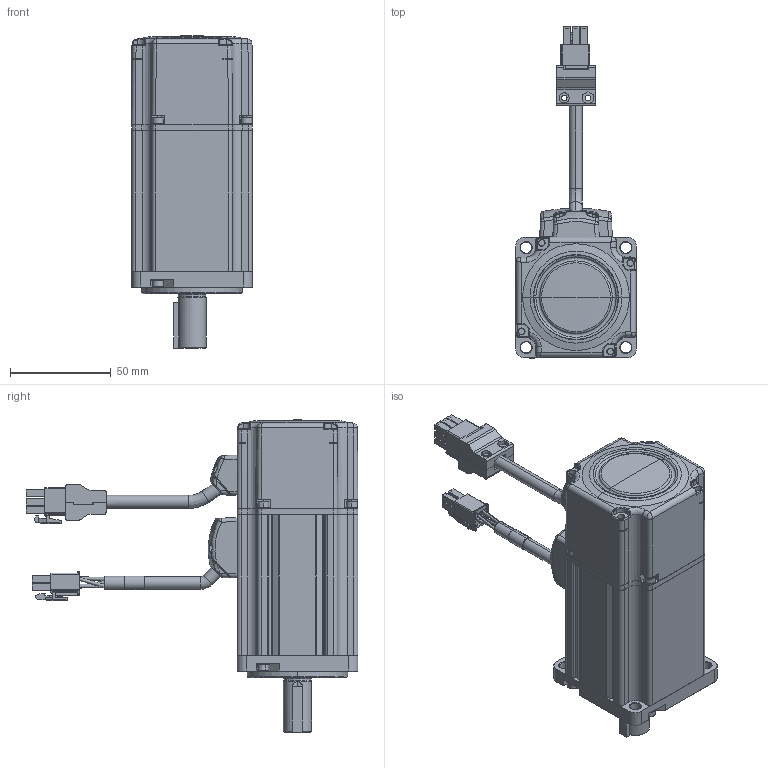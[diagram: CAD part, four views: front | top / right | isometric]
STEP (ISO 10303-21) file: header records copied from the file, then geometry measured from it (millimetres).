
FILE_DESCRIPTION (( 'STEP AP203' ), '1' );
FILE_NAME ('TSSM0602AE4-KCD-NNV09(-A).STEP', '2016-07-11T06:01:06', ( '' ), ( '' ), 'SwSTEP 2.0', 'SolidWorks 2012', '' );
FILE_SCHEMA (( 'CONFIG_CONTROL_DESIGN' ));
Products named in the file (1): TSSM0602AE4-KCD-NNV09(-A)
Bounding box: 60 x 164.7 x 155 mm (x, y, z)
Surface area: 61060.1 mm2 (no closed solid volume)
Topology: 0 solids, 43 shells, 1154 faces, 3379 edges, 2250 vertices
Faces by surface type: plane 505, cylinder 318, bspline 138, cone 119, torus 66, sphere 8
Entity records: 43328 total; most frequent: CARTESIAN_POINT 13389, DIRECTION 6143, ORIENTED_EDGE 5905, EDGE_CURVE 3375, VERTEX_POINT 2250, AXIS2_PLACEMENT_3D 2098, LINE 1947, VECTOR 1947
